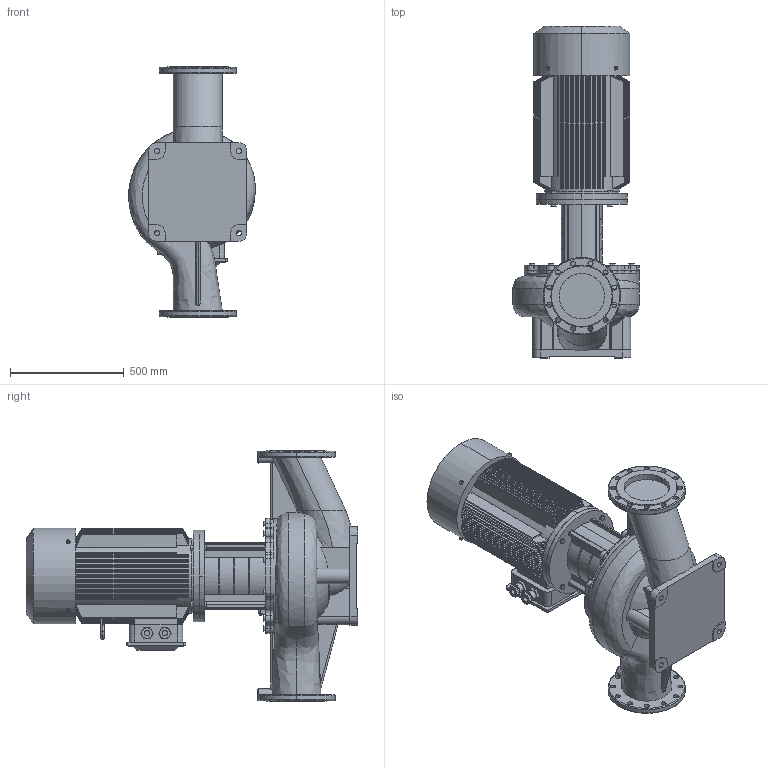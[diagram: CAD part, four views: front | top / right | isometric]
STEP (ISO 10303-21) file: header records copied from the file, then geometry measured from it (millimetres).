
FILE_DESCRIPTION (( 'STEP AP203' ), '1' );
FILE_NAME ('TD200-24G／4.STEP', '2026-09-08T00:18:47', ( '' ), ( '' ), 'SwSTEP 2.0', 'SolidWorks 2020', '' );
FILE_SCHEMA (( 'CONFIG_CONTROL_DESIGN' ));
Products named in the file (1): TD200-24Gㄞ4
Bounding box: 556.07 x 1457 x 1100 mm (x, y, z)
Volume: 197591013.5 mm3; surface area: 7326964.8 mm2
Topology: 1 solids, 9 shells, 1683 faces, 4307 edges, 2731 vertices
Faces by surface type: plane 697, cylinder 478, cone 414, torus 49, bspline 45
Entity records: 74366 total; most frequent: CARTESIAN_POINT 34270, ORIENTED_EDGE 8610, DIRECTION 8130, EDGE_CURVE 4305, AXIS2_PLACEMENT_3D 3245, VERTEX_POINT 2731, EDGE_LOOP 1848, FACE_OUTER_BOUND 1683
